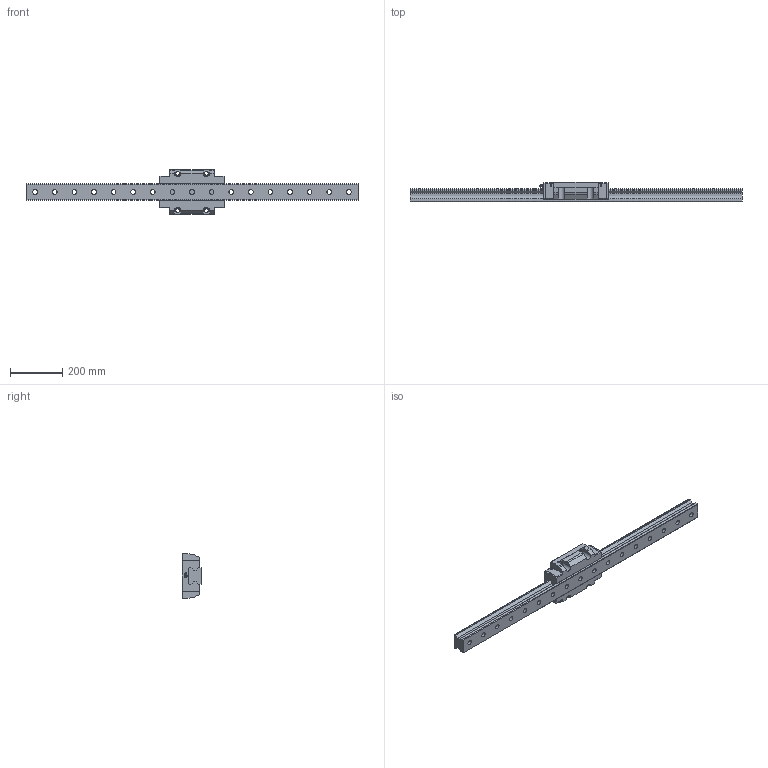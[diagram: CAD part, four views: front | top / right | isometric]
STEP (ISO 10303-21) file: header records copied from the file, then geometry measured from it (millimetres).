
FILE_DESCRIPTION(/* description */ ('STEP AP203'),/* implementation_level */ '2;1');
FILE_NAME(/* name */ 'SRN65C1SS-1270L_G35_0_B-PT18_512-55_0_0_0_1',/* time_stamp */ '2024-05-23T10:42:28+02:00',/* author */ ('License CC BY-ND 4.0'),/* organization */ ('CADENAS'),/* preprocessor_version */ 'ST-DEVELOPER v19.3',/* originating_system */ 'PARTsolutions',/* authorisation */ ' ');
FILE_SCHEMA (('CONFIG_CONTROL_DESIGN'));
Length unit declared in the file: millimetre
Products named in the file (4): SRN65C1SS-1270L_G35_0_B-PT18_512-55_0_0_0_1; SRN65C127035 Track; SRN65CSSB-PT1/81 Slide25-55; B-PT1/8-SRN_grease_nipple_joint
Assembly tree (3 placements, depth 2):
  SRN65C1SS-1270L_G35_0_B-PT18_512-55_0_0_0_1
    SRN65C127035 Track
    SRN65CSSB-PT1/81 Slide25-55
    B-PT1/8-SRN_grease_nipple_joint
Bounding box: 1270 x 75 x 170 mm (x, y, z)
Volume: 4847395.1 mm3; surface area: 511315.3 mm2
Topology: 3 solids, 3 shells, 250 faces, 648 edges, 427 vertices
Faces by surface type: plane 162, cylinder 59, cone 24, torus 3, sphere 2
Full cylindrical faces by diameter (mm): 5.2 x4, 9.6 x1, 14.5 x6, 18 x17, 26 x17
Entity records: 7366 total; most frequent: CARTESIAN_POINT 1351, DIRECTION 1200, ORIENTED_EDGE 1114, EDGE_CURVE 557, AXIS2_PLACEMENT_3D 416, VERTEX_POINT 412, FACE_BOUND 395, EDGE_LOOP 393
